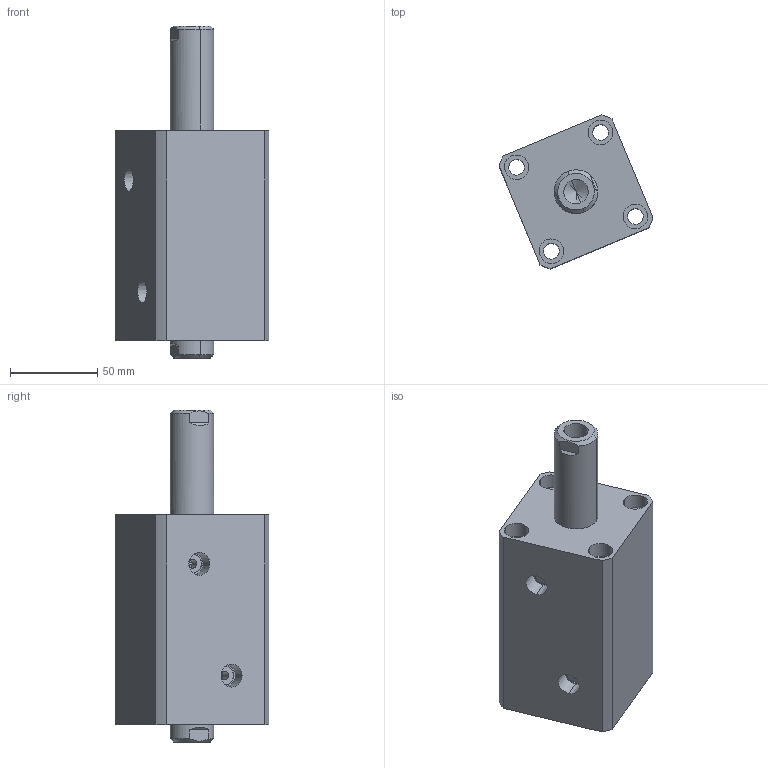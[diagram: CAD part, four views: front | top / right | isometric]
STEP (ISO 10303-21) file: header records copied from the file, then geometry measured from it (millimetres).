
FILE_DESCRIPTION (( 'STEP AP214' ), '1' );
FILE_NAME ('chtb-sw40x50n_asm.STEP', '2018-06-08T12:03:49', ( 'Windows' ), ( 'Microsoft' ), 'SwSTEP 2.0', 'SolidWorks 2015', '' );
FILE_SCHEMA (( 'AUTOMOTIVE_DESIGN' ));
Length unit declared in the file: millimetre
Products named in the file (4): CHTB-SW40X50NBT; CHTB-SD40QG; chtb-sw40x50n_asm; CHTB-SW40X50NHSG
Assembly tree (3 placements, depth 2):
  chtb-sw40x50n_asm
    CHTB-SD40QG
    CHTB-SW40X50NBT
    CHTB-SW40X50NHSG
Bounding box: 88.11 x 88.11 x 190 mm (x, y, z)
Volume: 529865 mm3; surface area: 101324.5 mm2
Topology: 3 solids, 3 shells, 167 faces, 429 edges, 282 vertices
Faces by surface type: cylinder 84, plane 40, cone 17, bspline 14, torus 12
Entity records: 10325 total; most frequent: CARTESIAN_POINT 6131, ORIENTED_EDGE 838, DIRECTION 822, EDGE_CURVE 419, AXIS2_PLACEMENT_3D 348, VERTEX_POINT 282, EDGE_LOOP 207, CIRCLE 189
